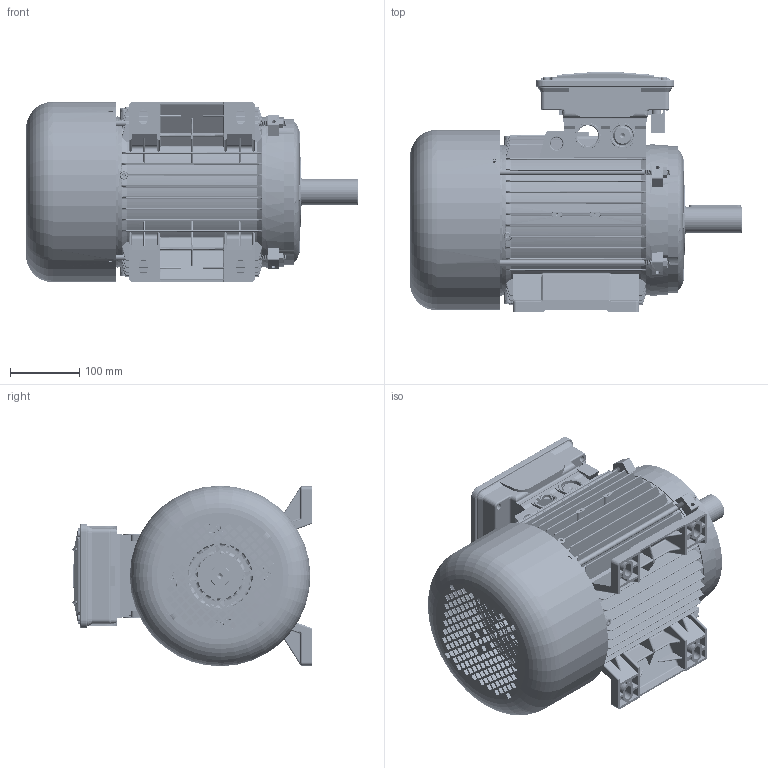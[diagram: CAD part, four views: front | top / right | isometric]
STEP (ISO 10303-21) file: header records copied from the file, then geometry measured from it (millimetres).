
FILE_DESCRIPTION (( 'STEP AP214' ), '1' );
FILE_NAME ('SM 132 S B3.STEP', '2018-07-04T14:51:28', ( '' ), ( '' ), 'SwSTEP 2.0', 'SolidWorks 2018', '' );
FILE_SCHEMA (( 'AUTOMOTIVE_DESIGN' ));
Length unit declared in the file: millimetre
Products named in the file (17): Cuffia SM 132; Guarnizione Coperchio Morsettiera Doppia Scatola BA 132 - DGBS0102; Piastra stringi Pipetta BA 132 - DGBA0210 bis; Guarnizione Basetta BA 132 - DGBU0202; Vite Autofilettante Testa Bombata 4,8x9,5; Pipetta passafilo; Scatola per Morsettiera BA 132 - DGBQ0102; dado M8_M8-1.25; Tirante SM 132 S - DGCQ0003; Chiavetta 132; Albero SM 132 S; Scudo Lato Comando B3 BA 132; Carcassa 132 S B3; Scatola BA 132 - Completa; SM 132 S B3; Vite M5x20; Coperchio Scatola Morsettiera BA 132 - DGBR0002
Assembly tree (27 placements, depth 3):
  SM 132 S B3
    Carcassa 132 S B3
    Scudo Lato Comando B3 BA 132  x2
    Albero SM 132 S
    Chiavetta 132
    Tirante SM 132 S - DGCQ0003  x4
    dado M8_M8-1.25  x4
    Scatola BA 132 - Completa
      Scatola per Morsettiera BA 132 - DGBQ0102
      Pipetta passafilo  x2
      Vite Autofilettante Testa Bombata 4,8x9,5
      Guarnizione Basetta BA 132 - DGBU0202
      Piastra stringi Pipetta BA 132 - DGBA0210 bis
      Guarnizione Coperchio Morsettiera Doppia Scatola BA 132 - DGBS0102
      Coperchio Scatola Morsettiera BA 132 - DGBR0002
      Vite M5x20  x4
    Cuffia SM 132
Bounding box: 478 x 344.89 x 259.97 mm (x, y, z)
Volume: 3919408.8 mm3; surface area: 1626415.1 mm2
Topology: 26 solids, 26 shells, 6177 faces, 16582 edges, 10521 vertices
Faces by surface type: cylinder 2752, plane 1931, bspline 621, torus 458, cone 399, sphere 16
Entity records: 193782 total; most frequent: CARTESIAN_POINT 79827, ORIENTED_EDGE 25032, DIRECTION 22188, EDGE_CURVE 12516, AXIS2_PLACEMENT_3D 8034, VERTEX_POINT 7982, VECTOR 6120, LINE 6120
